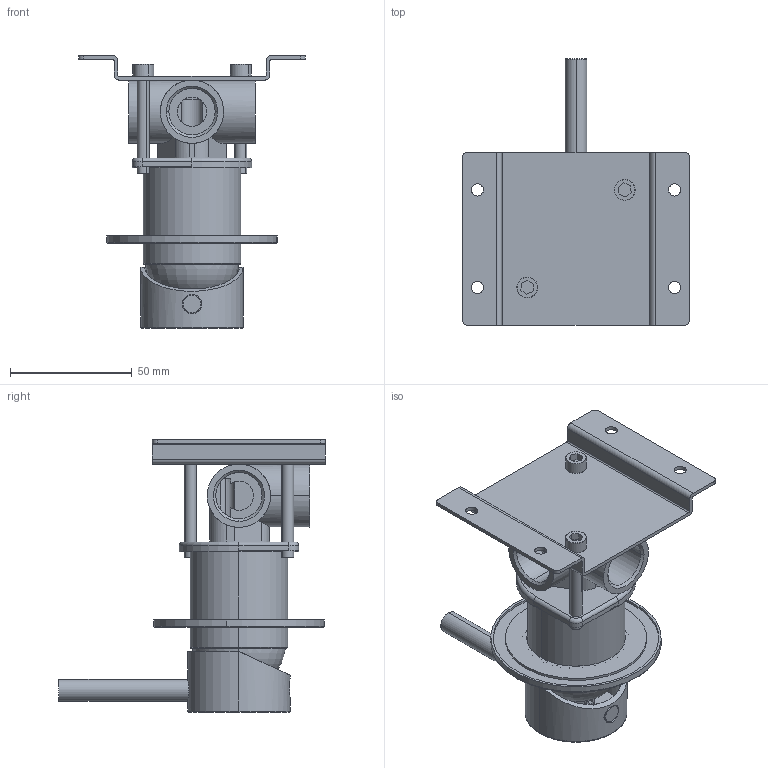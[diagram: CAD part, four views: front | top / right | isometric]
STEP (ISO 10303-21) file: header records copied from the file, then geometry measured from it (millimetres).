
FILE_DESCRIPTION (( 'STEP AP203' ), '1' );
FILE_NAME ('MXT38.STEP', '2023-11-13T14:45:25', ( '' ), ( '' ), 'SwSTEP 2.0', 'SolidWorks 2021', '' );
FILE_SCHEMA (( 'CONFIG_CONTROL_DESIGN' ));
Length unit declared in the file: millimetre
Products named in the file (14): MXT38; C47.00.0015; C25.1081.00.0_DefaultSviluppo; C18.12.0005.01; PIASTRA ESTETICA MECCANICO ﾘ 35 TONDA; C11.10.0022; C10.00.0015; MANIGLIA; C11.14.0007; C12.00.0036; C24.1837.00.0; C18.11.0012.01; C50.00.0038.00; C31.00.0006.01
Assembly tree (14 placements, depth 3):
  MXT38
    C10.00.0015
    C50.00.0038.00
    C47.00.0015
    C25.1081.00.0_DefaultSviluppo
    C11.10.0022  x2
    C24.1837.00.0
    C31.00.0006.01
    C18.12.0005.01
      MANIGLIA
      C18.11.0012.01
      C11.14.0007
    PIASTRA ESTETICA MECCANICO ﾘ 35 TONDA
    C12.00.0036
Bounding box: 93 x 109.5 x 111.9 mm (x, y, z)
Volume: 114417.5 mm3; surface area: 78771.2 mm2
Topology: 14 solids, 14 shells, 653 faces, 1513 edges, 885 vertices
Faces by surface type: cylinder 263, plane 197, torus 83, cone 62, sphere 32, bspline 16
Entity records: 20074 total; most frequent: CARTESIAN_POINT 4023, DIRECTION 3322, ORIENTED_EDGE 2862, EDGE_CURVE 1431, AXIS2_PLACEMENT_3D 1350, VERTEX_POINT 859, CIRCLE 715, EDGE_LOOP 708
